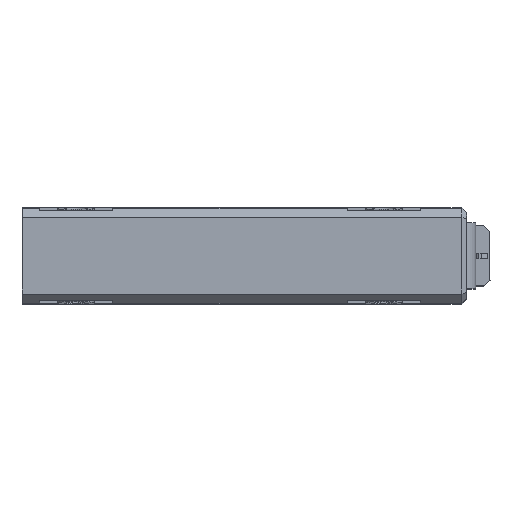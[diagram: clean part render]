
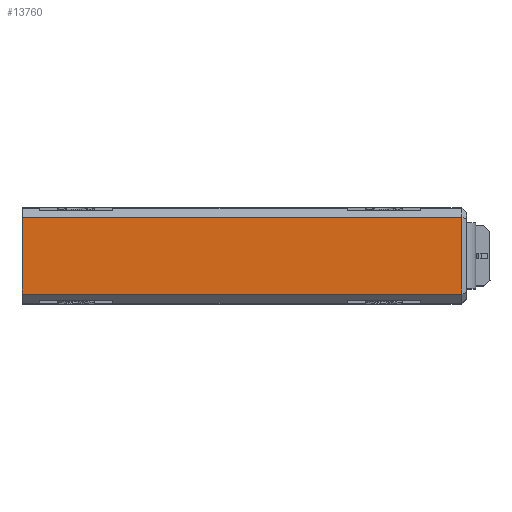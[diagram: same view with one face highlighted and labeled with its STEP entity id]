
A CAD part, top view. The second image highlights one B-rep face of the part: STEP entity #13760.
In plain terms, the highlighted planar face has unit normal (0, 0, 1).
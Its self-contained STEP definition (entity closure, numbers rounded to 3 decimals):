
#3955 = VERTEX_POINT ( 'NONE', #24577 ) ;
#7074 = CARTESIAN_POINT ( 'NONE',  ( 105.295, 2.259, 76.241 ) ) ;
#7117 = CARTESIAN_POINT ( 'NONE',  ( -32.009, -0.259, 76.241 ) ) ;
#8245 = DIRECTION ( 'NONE',  ( -1., 0., 0. ) ) ;
#9106 = EDGE_CURVE ( 'NONE', #37685, #12312, #30047, .T. ) ;
#9954 = EDGE_CURVE ( 'NONE', #34347, #3955, #13352, .T. ) ;
#10050 = DIRECTION ( 'NONE',  ( 0., 1., 0. ) ) ;
#11178 = LINE ( 'NONE', #26173, #23551 ) ;
#11318 = CARTESIAN_POINT ( 'NONE',  ( 105.295, 22.243, 76.241 ) ) ;
#12312 = VERTEX_POINT ( 'NONE', #22454 ) ;
#12791 = EDGE_LOOP ( 'NONE', ( #28064, #16172, #23278, #16211 ) ) ;
#13352 = LINE ( 'NONE', #7117, #33186 ) ;
#13760 = ADVANCED_FACE ( 'NONE', ( #16791 ), #26129, .T. ) ;
#16172 = ORIENTED_EDGE ( 'NONE', *, *, #9954, .F. ) ;
#16211 = ORIENTED_EDGE ( 'NONE', *, *, #9106, .T. ) ;
#16791 = FACE_OUTER_BOUND ( 'NONE', #12791, .T. ) ;
#17548 = EDGE_CURVE ( 'NONE', #37685, #34347, #37297, .T. ) ;
#21896 = DIRECTION ( 'NONE',  ( -1., 0., 0. ) ) ;
#22454 = CARTESIAN_POINT ( 'NONE',  ( 82.746, 22.243, 76.241 ) ) ;
#23278 = ORIENTED_EDGE ( 'NONE', *, *, #17548, .F. ) ;
#23551 = VECTOR ( 'NONE', #8245, 1000. ) ;
#24577 = CARTESIAN_POINT ( 'NONE',  ( -32.009, 22.243, 76.241 ) ) ;
#24753 = CARTESIAN_POINT ( 'NONE',  ( 82.746, 22.243, 76.241 ) ) ;
#25792 = CARTESIAN_POINT ( 'NONE',  ( -32.009, 2.259, 76.241 ) ) ;
#26129 = PLANE ( 'NONE',  #28483 ) ;
#26173 = CARTESIAN_POINT ( 'NONE',  ( 105.295, 22.243, 76.241 ) ) ;
#28064 = ORIENTED_EDGE ( 'NONE', *, *, #34341, .T. ) ;
#28483 = AXIS2_PLACEMENT_3D ( 'NONE', #11318, #34926, #37475 ) ;
#30047 = LINE ( 'NONE', #24753, #38600 ) ;
#31538 = CARTESIAN_POINT ( 'NONE',  ( 82.746, 2.259, 76.241 ) ) ;
#32977 = DIRECTION ( 'NONE',  ( 0., 1., 0. ) ) ;
#33186 = VECTOR ( 'NONE', #10050, 1000. ) ;
#34341 = EDGE_CURVE ( 'NONE', #12312, #3955, #11178, .T. ) ;
#34347 = VERTEX_POINT ( 'NONE', #25792 ) ;
#34926 = DIRECTION ( 'NONE',  ( 0., 0., 1. ) ) ;
#35852 = VECTOR ( 'NONE', #21896, 1000. ) ;
#37297 = LINE ( 'NONE', #7074, #35852 ) ;
#37475 = DIRECTION ( 'NONE',  ( -1., 0., 0. ) ) ;
#37685 = VERTEX_POINT ( 'NONE', #31538 ) ;
#38600 = VECTOR ( 'NONE', #32977, 1000. ) ;
